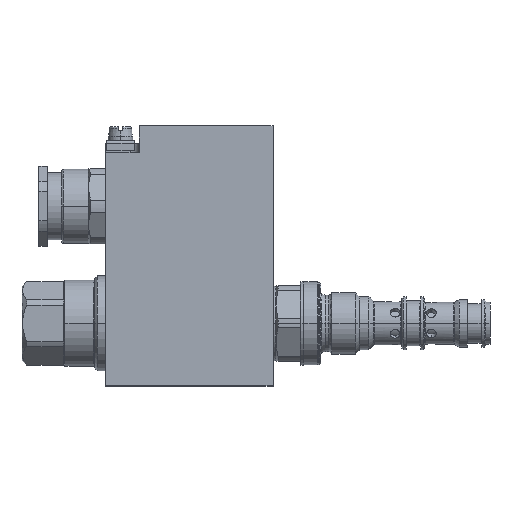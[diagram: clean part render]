
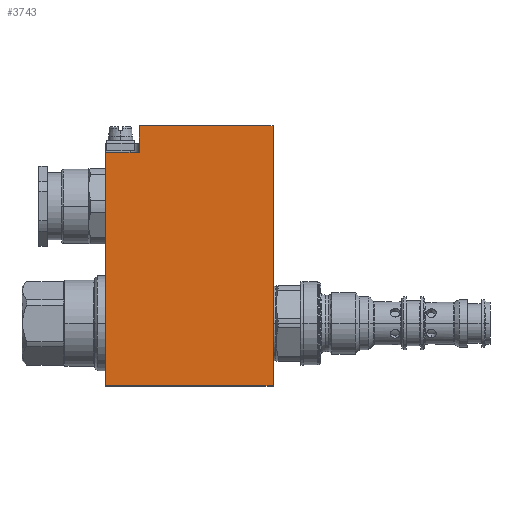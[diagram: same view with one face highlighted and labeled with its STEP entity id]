
A CAD part, top view. The second image highlights one B-rep face of the part: STEP entity #3743.
In plain terms, the highlighted planar face has unit normal (0, 0, 1).
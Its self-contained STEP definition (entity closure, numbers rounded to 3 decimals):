
#490 = ORIENTED_EDGE ( 'NONE', *, *, #14578, .T. ) ;
#832 = CARTESIAN_POINT ( 'NONE',  ( 0., -22.5, 22.5 ) ) ;
#1236 = EDGE_CURVE ( 'NONE', #5576, #16183, #14834, .T. ) ;
#1402 = DIRECTION ( 'NONE',  ( 0., 1., 0. ) ) ;
#1520 = EDGE_CURVE ( 'NONE', #4592, #6139, #11929, .T. ) ;
#1561 = DIRECTION ( 'NONE',  ( -1., 0., 0. ) ) ;
#1798 = DIRECTION ( 'NONE',  ( -1., 0., 0. ) ) ;
#2924 = ORIENTED_EDGE ( 'NONE', *, *, #5536, .T. ) ;
#3431 = DIRECTION ( 'NONE',  ( 1., 0., 0. ) ) ;
#3475 = CARTESIAN_POINT ( 'NONE',  ( 0., 70.8, 22.5 ) ) ;
#3743 = ADVANCED_FACE ( 'NONE', ( #12187 ), #4275, .F. ) ;
#4275 = PLANE ( 'NONE',  #19294 ) ;
#4441 = VECTOR ( 'NONE', #1561, 1000. ) ;
#4508 = CARTESIAN_POINT ( 'NONE',  ( -48., 61.3, 22.5 ) ) ;
#4592 = VERTEX_POINT ( 'NONE', #10837 ) ;
#5304 = VECTOR ( 'NONE', #3431, 1000. ) ;
#5536 = EDGE_CURVE ( 'NONE', #14817, #16183, #15138, .T. ) ;
#5576 = VERTEX_POINT ( 'NONE', #7957 ) ;
#6139 = VERTEX_POINT ( 'NONE', #14869 ) ;
#6292 = LINE ( 'NONE', #16917, #5304 ) ;
#6406 = DIRECTION ( 'NONE',  ( 0., 0., -1. ) ) ;
#7037 = DIRECTION ( 'NONE',  ( 0., -1., 0. ) ) ;
#7113 = VECTOR ( 'NONE', #1798, 1000. ) ;
#7196 = VERTEX_POINT ( 'NONE', #7360 ) ;
#7343 = EDGE_LOOP ( 'NONE', ( #2924, #11802, #19354, #490, #9434, #15706 ) ) ;
#7360 = CARTESIAN_POINT ( 'NONE',  ( -60., 61.3, 22.5 ) ) ;
#7957 = CARTESIAN_POINT ( 'NONE',  ( -48., 61.3, 22.5 ) ) ;
#8572 = DIRECTION ( 'NONE',  ( 0., -1., 0. ) ) ;
#9138 = VECTOR ( 'NONE', #7037, 1000. ) ;
#9352 = CARTESIAN_POINT ( 'NONE',  ( 0., -22.5, 22.5 ) ) ;
#9434 = ORIENTED_EDGE ( 'NONE', *, *, #1520, .F. ) ;
#9785 = VECTOR ( 'NONE', #1402, 1000. ) ;
#10017 = CARTESIAN_POINT ( 'NONE',  ( -60., -22.5, 22.5 ) ) ;
#10309 = LINE ( 'NONE', #10017, #9138 ) ;
#10837 = CARTESIAN_POINT ( 'NONE',  ( 0., -22.5, 22.5 ) ) ;
#11802 = ORIENTED_EDGE ( 'NONE', *, *, #1236, .F. ) ;
#11929 = LINE ( 'NONE', #17979, #4441 ) ;
#12187 = FACE_OUTER_BOUND ( 'NONE', #7343, .T. ) ;
#12672 = EDGE_CURVE ( 'NONE', #7196, #5576, #6292, .T. ) ;
#12727 = EDGE_CURVE ( 'NONE', #14817, #4592, #14656, .T. ) ;
#12794 = VECTOR ( 'NONE', #8572, 1000. ) ;
#14578 = EDGE_CURVE ( 'NONE', #7196, #6139, #10309, .T. ) ;
#14656 = LINE ( 'NONE', #832, #12794 ) ;
#14817 = VERTEX_POINT ( 'NONE', #3475 ) ;
#14834 = LINE ( 'NONE', #4508, #9785 ) ;
#14869 = CARTESIAN_POINT ( 'NONE',  ( -60., -22.5, 22.5 ) ) ;
#15138 = LINE ( 'NONE', #18136, #7113 ) ;
#15706 = ORIENTED_EDGE ( 'NONE', *, *, #12727, .F. ) ;
#16183 = VERTEX_POINT ( 'NONE', #19445 ) ;
#16917 = CARTESIAN_POINT ( 'NONE',  ( -60., 61.3, 22.5 ) ) ;
#17979 = CARTESIAN_POINT ( 'NONE',  ( 0., -22.5, 22.5 ) ) ;
#18136 = CARTESIAN_POINT ( 'NONE',  ( 0., 70.8, 22.5 ) ) ;
#18614 = DIRECTION ( 'NONE',  ( -1., 0., 0. ) ) ;
#19294 = AXIS2_PLACEMENT_3D ( 'NONE', #9352, #6406, #18614 ) ;
#19354 = ORIENTED_EDGE ( 'NONE', *, *, #12672, .F. ) ;
#19445 = CARTESIAN_POINT ( 'NONE',  ( -48., 70.8, 22.5 ) ) ;
